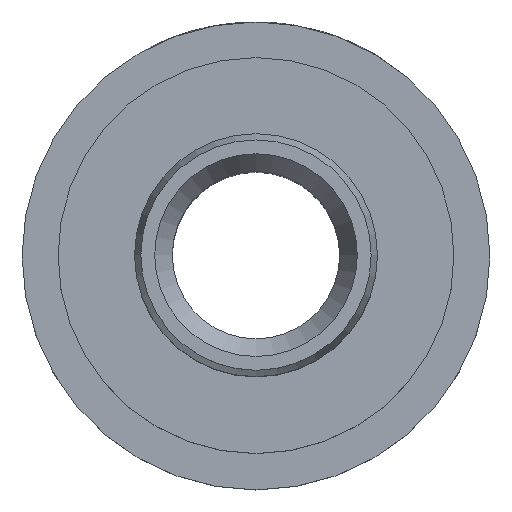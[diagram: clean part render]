
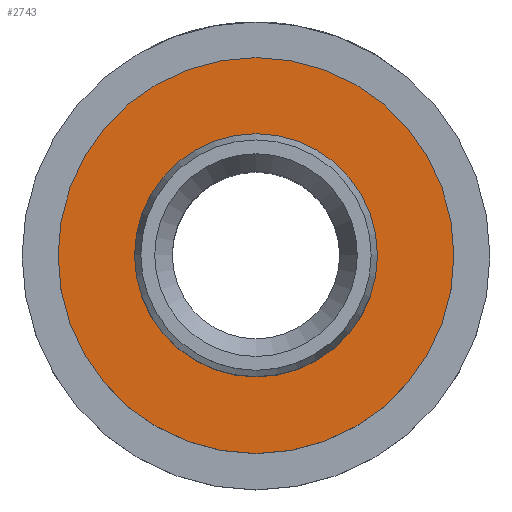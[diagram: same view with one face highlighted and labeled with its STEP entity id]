
A CAD part, top view. The second image highlights one B-rep face of the part: STEP entity #2743.
In plain terms, the highlighted planar face has unit normal (0, 0, 1).
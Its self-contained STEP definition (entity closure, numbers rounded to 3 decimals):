
#231=FACE_BOUND('',#914,.T.);
#281=PLANE('',#2945);
#743=FACE_OUTER_BOUND('',#913,.T.);
#913=EDGE_LOOP('',(#2462,#2463));
#914=EDGE_LOOP('',(#2464,#2465));
#1040=CIRCLE('',#2943,6.4);
#1041=CIRCLE('',#2944,6.4);
#1042=CIRCLE('',#2946,11.);
#1043=CIRCLE('',#2947,11.);
#1328=VERTEX_POINT('',#6119);
#1329=VERTEX_POINT('',#6120);
#1330=VERTEX_POINT('',#6125);
#1331=VERTEX_POINT('',#6126);
#1721=EDGE_CURVE('',#1328,#1329,#1040,.T.);
#1722=EDGE_CURVE('',#1329,#1328,#1041,.T.);
#1724=EDGE_CURVE('',#1330,#1331,#1042,.T.);
#1725=EDGE_CURVE('',#1331,#1330,#1043,.T.);
#2462=ORIENTED_EDGE('',*,*,#1724,.F.);
#2463=ORIENTED_EDGE('',*,*,#1725,.F.);
#2464=ORIENTED_EDGE('',*,*,#1721,.T.);
#2465=ORIENTED_EDGE('',*,*,#1722,.T.);
#2743=ADVANCED_FACE('',(#743,#231),#281,.T.);
#2943=AXIS2_PLACEMENT_3D('',#6121,#3461,#3462);
#2944=AXIS2_PLACEMENT_3D('',#6122,#3463,#3464);
#2945=AXIS2_PLACEMENT_3D('',#6124,#3466,#3467);
#2946=AXIS2_PLACEMENT_3D('',#6127,#3468,#3469);
#2947=AXIS2_PLACEMENT_3D('',#6128,#3470,#3471);
#3461=DIRECTION('center_axis',(0.,0.,-1.));
#3462=DIRECTION('ref_axis',(1.,0.,0.));
#3463=DIRECTION('center_axis',(0.,0.,-1.));
#3464=DIRECTION('ref_axis',(1.,0.,0.));
#3466=DIRECTION('center_axis',(0.,0.,1.));
#3467=DIRECTION('ref_axis',(1.,0.,0.));
#3468=DIRECTION('center_axis',(0.,0.,-1.));
#3469=DIRECTION('ref_axis',(1.,0.,0.));
#3470=DIRECTION('center_axis',(0.,0.,-1.));
#3471=DIRECTION('ref_axis',(1.,0.,0.));
#6119=CARTESIAN_POINT('',(0.,6.4,32.));
#6120=CARTESIAN_POINT('',(0.,-6.4,32.));
#6121=CARTESIAN_POINT('Origin',(0.,0.,32.));
#6122=CARTESIAN_POINT('Origin',(0.,0.,32.));
#6124=CARTESIAN_POINT('Origin',(0.,11.,32.));
#6125=CARTESIAN_POINT('',(0.,11.,32.));
#6126=CARTESIAN_POINT('',(0.,-11.,32.));
#6127=CARTESIAN_POINT('Origin',(0.,0.,32.));
#6128=CARTESIAN_POINT('Origin',(0.,0.,32.));
